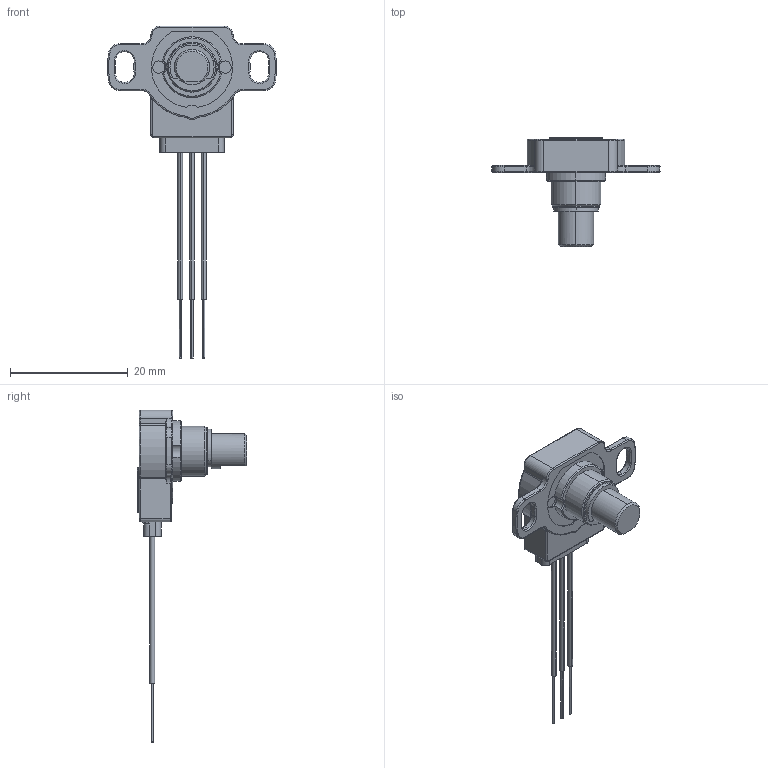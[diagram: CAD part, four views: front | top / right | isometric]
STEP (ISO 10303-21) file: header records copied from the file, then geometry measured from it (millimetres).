
FILE_DESCRIPTION (( 'STEP AP203' ), '1' );
FILE_NAME ('HSM14F_3D_clean.STEP', '2023-09-08T07:15:20', ( '' ), ( '' ), 'SwSTEP 2.0', 'SolidWorks 2022', '' );
FILE_SCHEMA (( 'CONFIG_CONTROL_DESIGN' ));
Length unit declared in the file: millimetre
Products named in the file (1): HSM14F_3D_clean
Bounding box: 28.76 x 18.6 x 56.5 mm (x, y, z)
Volume: 2290.2 mm3; surface area: 2397.4 mm2
Topology: 1 solids, 1 shells, 544 faces, 1434 edges, 876 vertices
Faces by surface type: cylinder 236, bspline 149, plane 145, cone 14
Entity records: 20251 total; most frequent: CARTESIAN_POINT 7851, ORIENTED_EDGE 2828, DIRECTION 2326, EDGE_CURVE 1414, VERTEX_POINT 876, AXIS2_PLACEMENT_3D 868, LINE 590, VECTOR 590
